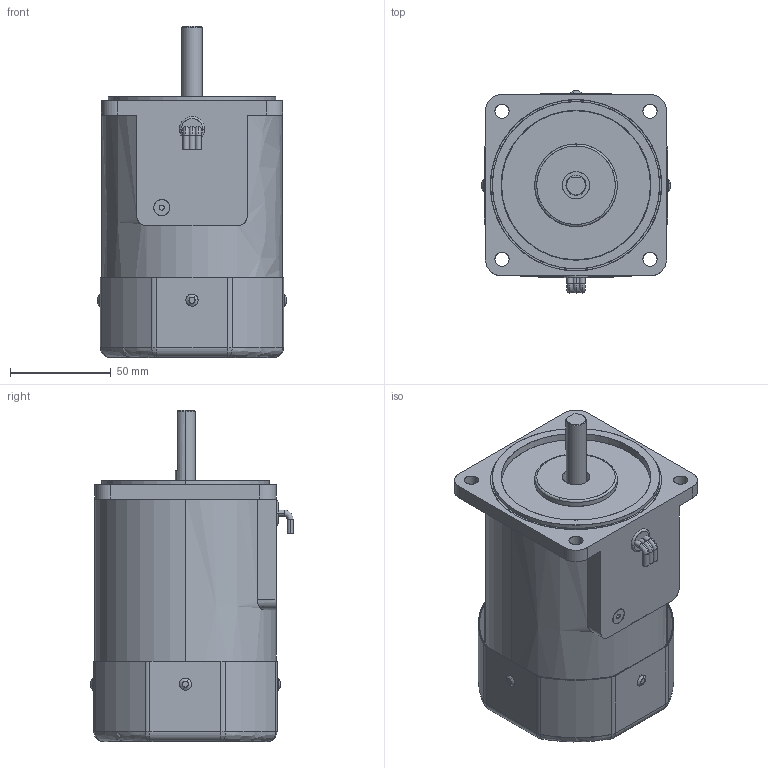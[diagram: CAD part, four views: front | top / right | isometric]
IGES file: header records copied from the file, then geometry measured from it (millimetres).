
Start section: SolidWorks IGES file using analytic representation for surfaces
Bounding box: 94 x 100.5 x 164.5 mm (x, y, z)
Surface area: 91559.8 mm2 (no closed solid volume)
Topology: 0 solids, 0 shells, 140 faces, 2246 edges, 2238 vertices
Faces by surface type: revolution 75, bspline 65
